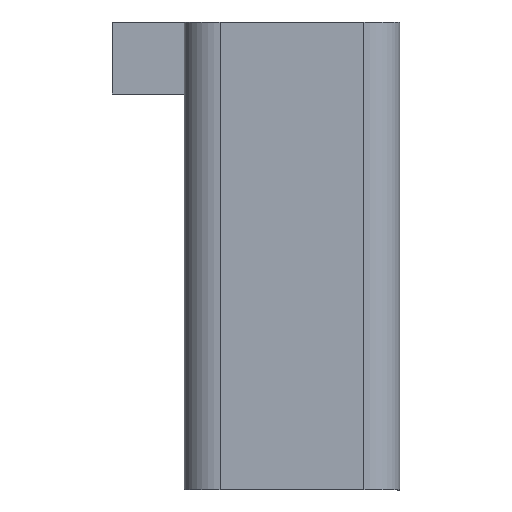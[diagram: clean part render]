
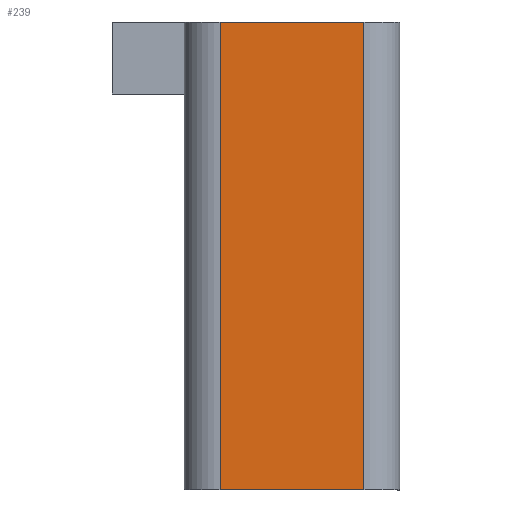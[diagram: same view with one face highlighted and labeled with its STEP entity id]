
A CAD part, left-side view. The second image highlights one B-rep face of the part: STEP entity #239.
In plain terms, the highlighted planar face has unit normal (-1, 0, 0).
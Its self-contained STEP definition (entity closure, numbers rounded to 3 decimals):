
#212 = VERTEX_POINT('',#213);
#213 = CARTESIAN_POINT('',(-20.,-5.,
    65.));
#220 = EDGE_CURVE('',#212,#221,#223,.T.);
#221 = VERTEX_POINT('',#222);
#222 = CARTESIAN_POINT('',(-20.,-25.,65.));
#223 = LINE('',#224,#225);
#224 = CARTESIAN_POINT('',(-20.,-25.,65.));
#225 = VECTOR('',#226,1.);
#226 = DIRECTION('',(0.,-1.,0.));
#239 = ADVANCED_FACE('',(#240),#265,.T.);
#240 = FACE_BOUND('',#241,.T.);
#241 = EDGE_LOOP('',(#242,#243,#251,#259));
#242 = ORIENTED_EDGE('',*,*,#220,.F.);
#243 = ORIENTED_EDGE('',*,*,#244,.T.);
#244 = EDGE_CURVE('',#212,#245,#247,.T.);
#245 = VERTEX_POINT('',#246);
#246 = CARTESIAN_POINT('',(-20.,-5.,
    0.));
#247 = LINE('',#248,#249);
#248 = CARTESIAN_POINT('',(-20.,-5.,
    65.));
#249 = VECTOR('',#250,1.);
#250 = DIRECTION('',(0.,0.,-1.));
#251 = ORIENTED_EDGE('',*,*,#252,.T.);
#252 = EDGE_CURVE('',#245,#253,#255,.T.);
#253 = VERTEX_POINT('',#254);
#254 = CARTESIAN_POINT('',(-20.,-25.,0.));
#255 = LINE('',#256,#257);
#256 = CARTESIAN_POINT('',(-20.,-25.,0.));
#257 = VECTOR('',#258,1.);
#258 = DIRECTION('',(0.,-1.,0.));
#259 = ORIENTED_EDGE('',*,*,#260,.T.);
#260 = EDGE_CURVE('',#253,#221,#261,.T.);
#261 = LINE('',#262,#263);
#262 = CARTESIAN_POINT('',(-20.,-25.,0.));
#263 = VECTOR('',#264,1.);
#264 = DIRECTION('',(0.,0.,1.));
#265 = PLANE('',#266);
#266 = AXIS2_PLACEMENT_3D('',#267,#268,#269);
#267 = CARTESIAN_POINT('',(-20.,-30.,65.));
#268 = DIRECTION('',(-1.,0.,0.));
#269 = DIRECTION('',(0.,1.,0.));
